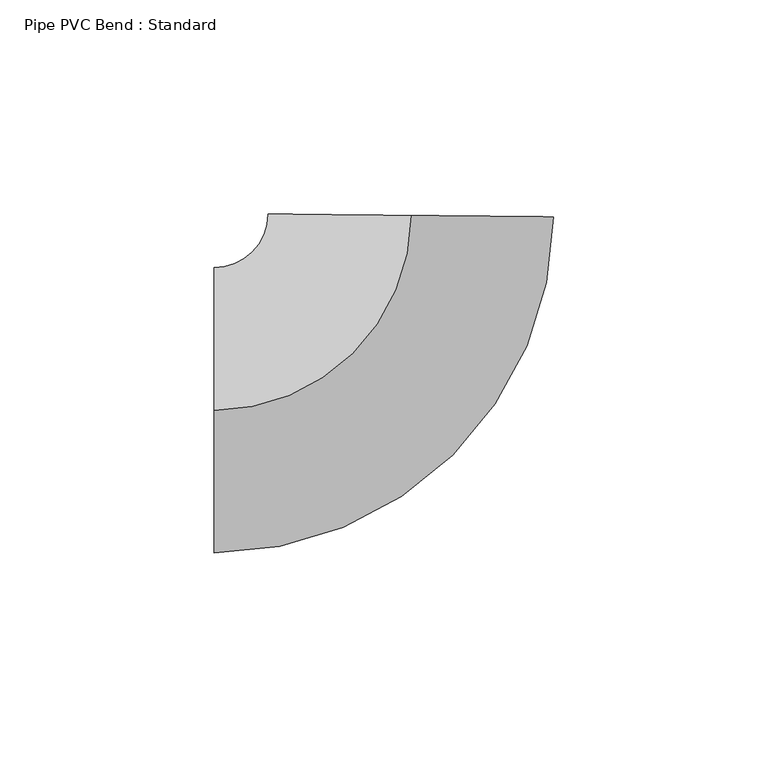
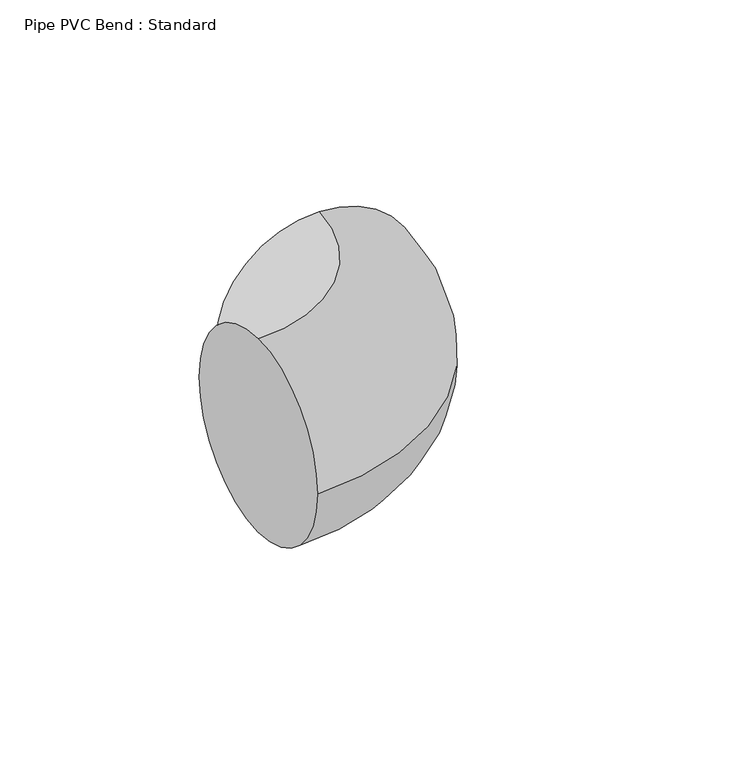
"""IFC4 building model written with IfcOpenShell, lengths in millimetres: pipe fitting geometry, Pipe PVC Bend : Standard."""

import ifcopenshell
import ifcopenshell.guid

model = None  # the IFC model being written
_history = None  # IfcOwnerHistory: only IFC2X3 demands one
_inside = {}  # id of a spatial element -> (the spatial element, [elements in it])
_under = {}  # id of a project, library or spatial element -> (it, [spatial elements below it])
_declared = {}  # id of a project -> (the project, [libraries it declares])
_typed = {}  # id of a type object -> (the type object, [elements of that type])
_made_of = {}  # id of a material, layer set ... -> (it, [elements and type objects made of it])


def new_model(schema):
    """Start an empty IFC model of exactly this schema.

    Asked for "IFC4X3", IfcOpenShell would pick the latest addendum, in which some entities
    have other attributes; the version numbers below select the first issue.
    IFC2X3 requires an IfcOwnerHistory on every rooted entity: one is made here for all.
    """
    global model, _history
    if schema == "IFC4X3":
        model = ifcopenshell.file(schema_version=(4, 3, 0, 0))
    else:
        model = ifcopenshell.file(schema=schema)
    _inside.clear()
    _under.clear()
    _declared.clear()
    _typed.clear()
    _made_of.clear()
    _history = None
    if model.schema == "IFC2X3":
        org = make("IfcOrganization", Name="unknown")
        user = make(
            "IfcPersonAndOrganization",
            ThePerson=make("IfcPerson", FamilyName="unknown"),
            TheOrganization=org,
        )
        app = make(
            "IfcApplication",
            ApplicationDeveloper=org,
            Version="unknown",
            ApplicationFullName="unknown",
            ApplicationIdentifier="unknown",
        )
        _history = make(
            "IfcOwnerHistory",
            OwningUser=user,
            OwningApplication=app,
            ChangeAction="ADDED",
            CreationDate=0,
        )
    return model


def make(cls, **values):
    """One entity of the class cls with the attributes given. An attribute that is None is left unset."""
    return model.create_entity(
        cls, **{name: value for name, value in values.items() if value is not None}
    )


def rooted(cls, **values):
    """An entity with a GlobalId (a new one), such as an element, a storey or a relation."""
    return make(cls, GlobalId=ifcopenshell.guid.new(), OwnerHistory=_history, **values)


def si_unit(unit_type, name, prefix=None):
    """IfcSIUnit, for example si_unit("LENGTHUNIT", "METRE", prefix="MILLI")."""
    return make("IfcSIUnit", UnitType=unit_type, Prefix=prefix, Name=name)


def assignment(units):
    """IfcUnitAssignment: the units of a project."""
    return None if units is None else make("IfcUnitAssignment", Units=units)


def point(xyz):
    """IfcCartesianPoint."""
    return None if xyz is None else make("IfcCartesianPoint", Coordinates=xyz)


def direction(xyz):
    """IfcDirection."""
    return None if xyz is None else make("IfcDirection", DirectionRatios=xyz)


def frame(location, z_axis=None, x_axis=None):
    """IfcAxis2Placement3D, a coordinate frame: its origin and axes. An axis left out is left unset."""
    return make(
        "IfcAxis2Placement3D",
        Location=point(location),
        Axis=direction(z_axis),
        RefDirection=direction(x_axis),
    )


def origin():
    """The frame at (0, 0, 0) with its axes left unset."""
    return frame((0.0, 0.0, 0.0))


def place(relative_to, where):
    """IfcLocalPlacement: puts the frame where relative to a parent placement (None: the world)."""
    return make(
        "IfcLocalPlacement", PlacementRelTo=relative_to, RelativePlacement=where
    )


def context(
    kind, dimensions, precision=None, world=None, true_north=None, identifier=None
):
    """IfcGeometricRepresentationContext, for example the 3D "Model" context."""
    return make(
        "IfcGeometricRepresentationContext",
        ContextIdentifier=identifier,
        ContextType=kind,
        CoordinateSpaceDimension=dimensions,
        Precision=precision,
        WorldCoordinateSystem=world,
        TrueNorth=true_north,
    )


def project(units=None, contexts=None):
    """IfcProject with its units and contexts."""
    return rooted(
        "IfcProject",
        Name="project",
        RepresentationContexts=contexts,
        UnitsInContext=assignment(units),
    )


def spatial(cls, under=None, at=None, **own):
    """A site, building, storey or space (cls), placed at a placement, below another one or the project."""
    s = rooted(cls, ObjectPlacement=at, **own)
    if under is not None:
        _under.setdefault(under.id(), (under, []))[1].append(s)
    return s


def circle_curve(where, radius):
    """IfcCircle in the frame where."""
    return make("IfcCircle", Position=where, Radius=radius)


def ellipse_curve(where, semi_axis1, semi_axis2):
    """IfcEllipse in the frame where."""
    return make(
        "IfcEllipse", Position=where, SemiAxis1=semi_axis1, SemiAxis2=semi_axis2
    )


def trimmed(basis, trim1, trim2, sense, master):
    """IfcTrimmedCurve: the piece of a basis curve between two trims."""
    return make(
        "IfcTrimmedCurve",
        BasisCurve=basis,
        Trim1=trim1,
        Trim2=trim2,
        SenseAgreement=sense,
        MasterRepresentation=master,
    )


def shape(context_of_items, identifier, shape_type, items):
    """IfcShapeRepresentation: the items that make up one representation, for example the "Body"."""
    return make(
        "IfcShapeRepresentation",
        ContextOfItems=context_of_items,
        RepresentationIdentifier=identifier,
        RepresentationType=shape_type,
        Items=items,
    )


def source(mapping_origin, context_of_items, identifier, shape_type, items):
    """IfcRepresentationMap: a shape defined once, which mapped items show again and again."""
    return make(
        "IfcRepresentationMap",
        MappingOrigin=mapping_origin,
        MappedRepresentation=shape(context_of_items, identifier, shape_type, items),
    )


def transform(
    local_origin,
    x_axis=None,
    y_axis=None,
    z_axis=None,
    scale=None,
    scale2=None,
    scale3=None,
    uniform=True,
):
    """IfcCartesianTransformationOperator3D, or its non-uniform kind. x_axis, y_axis, z_axis: its Axis1, 2, 3."""
    if uniform:
        return make(
            "IfcCartesianTransformationOperator3D",
            Axis1=direction(x_axis),
            Axis2=direction(y_axis),
            LocalOrigin=point(local_origin),
            Scale=scale,
            Axis3=direction(z_axis),
        )
    return make(
        "IfcCartesianTransformationOperator3DnonUniform",
        Axis1=direction(x_axis),
        Axis2=direction(y_axis),
        LocalOrigin=point(local_origin),
        Scale=scale,
        Axis3=direction(z_axis),
        Scale2=scale2,
        Scale3=scale3,
    )


def mapped(mapping_source, mapping_target):
    """IfcMappedItem: shows the shape of a source again, moved by a transform."""
    return make(
        "IfcMappedItem", MappingSource=mapping_source, MappingTarget=mapping_target
    )


def made_of(thing, what):
    """Note that an element or type object is made of a material, layer set ...; save() writes the relation."""
    if what is not None:
        _made_of.setdefault(what.id(), (what, []))[1].append(thing)
    return thing


def element(
    cls,
    number,
    at=None,
    inside=None,
    cuts=None,
    type_object=None,
    material=None,
    context=None,
    identifier="Body",
    shape_type=None,
    held_by="IfcProductDefinitionShape",
    body=None,
    shapes=None,
    **own,
):
    """One element of the class cls, such as IfcWall. Its Tag is "e" and its number.

    at: its placement. inside: the storey or other place that contains it. cuts: it is an
    opening in that element (IfcRelVoidsElement). A single representation is given by context,
    identifier, shape_type and body (its items); several are given by shapes. held_by: the class
    of the entity that holds the representations. save() writes the other relations.
    """
    e = rooted(cls, Tag="e%d" % number, ObjectPlacement=at, **own)
    if body is not None:
        shapes = [shape(context, identifier, shape_type, body)]
    if shapes is not None:
        e.Representation = make(held_by, Representations=shapes)
    if inside is not None:
        _inside.setdefault(inside.id(), (inside, []))[1].append(e)
    if cuts is not None:
        rooted(
            "IfcRelVoidsElement", RelatingBuildingElement=cuts, RelatedOpeningElement=e
        )
    if type_object is not None:
        _typed.setdefault(type_object.id(), (type_object, []))[1].append(e)
    return made_of(e, material)


def aggregate(whole, parts):
    """IfcRelAggregates: a whole, such as a stair, and the parts it consists of."""
    return rooted("IfcRelAggregates", RelatingObject=whole, RelatedObjects=parts)


def save(model, path):
    """Write the relations noted so far, then the file.

    IfcRelAggregates (storeys below a building ...), IfcRelContainedInSpatialStructure (elements
    in a storey), IfcRelDefinesByType, IfcRelAssociatesMaterial and IfcRelDeclares: one each for
    every whole, place, type object, material and project.
    """
    for whole, parts in _under.values():
        aggregate(whole, parts)
    for where, things in _inside.values():
        rooted(
            "IfcRelContainedInSpatialStructure",
            RelatedElements=things,
            RelatingStructure=where,
        )
    for kind, things in _typed.values():
        rooted("IfcRelDefinesByType", RelatedObjects=things, RelatingType=kind)
    for what, things in _made_of.values():
        rooted("IfcRelAssociatesMaterial", RelatedObjects=things, RelatingMaterial=what)
    for by, libraries in _declared.values():
        rooted("IfcRelDeclares", RelatingContext=by, RelatedDefinitions=libraries)
    model.write(path)


def plane_surface(at):
    """IfcPlane: the flat surface through the origin of the frame at, square to its z axis."""
    return make("IfcPlane", Position=at)


def revolved_surface(curve, axis_point, axis_direction):
    """IfcSurfaceOfRevolution: the curve turned about the line through axis_point along axis_direction."""
    return make(
        "IfcSurfaceOfRevolution",
        SweptCurve=make("IfcArbitraryOpenProfileDef", ProfileType="CURVE", Curve=curve),
        AxisPosition=make("IfcAxis1Placement", Location=point(axis_point), Axis=direction(axis_direction)),
    )


def advanced_brep(points, edges, surfaces, faces):
    """IfcAdvancedBrep: a solid bounded by faces that lie on surfaces and meet in shared edges.

    An edge is (start, end): straight between two places in points (the first is 0);
    or (start, end, curve); or (start, end, curve, False) where it runs against its curve.
    A face is (place in surfaces, loops), or (place, loops, False) where it looks against
    its surface's normal. A loop lists edges by number (the first is 1), with a minus sign
    where the edge is run from its end to its start. The first loop is the outer one.
    """
    corners = [point(p) for p in points]
    vertices = [make("IfcVertexPoint", VertexGeometry=c) for c in corners]
    made = []
    for start, end, *more in edges:
        made.append(
            make(
                "IfcEdgeCurve",
                EdgeStart=vertices[start],
                EdgeEnd=vertices[end],
                EdgeGeometry=more[0] if more else make("IfcPolyline", Points=[corners[start], corners[end]]),
                SameSense=more[1] if len(more) > 1 else True,
            )
        )
    hull = []
    for where, loops, *sense in faces:
        bounds = []
        for j, loop in enumerate(loops):
            ring = [make("IfcOrientedEdge", EdgeElement=made[abs(k) - 1], Orientation=k > 0) for k in loop]
            bounds.append(
                make(
                    "IfcFaceOuterBound" if j == 0 else "IfcFaceBound",
                    Bound=make("IfcEdgeLoop", EdgeList=ring),
                    Orientation=True,
                )
            )
        hull.append(make("IfcAdvancedFace", Bounds=bounds, FaceSurface=surfaces[where], SameSense=sense[0] if sense else True))
    return make("IfcAdvancedBrep", Outer=make("IfcClosedShell", CfsFaces=hull))


def pipe_pvc_bend_standard_296dcabe(model_context):
    return source(origin(), model_context, "Body", "AdvancedBrep", [
        advanced_brep(
        [(-45.5542112, 0.0, 33.3375), (-45.5542112, 33.3375, 0.0), (-45.5542112, 0.0, -33.3375), (-45.5542112, -33.3375, 0.0), (0.4807254, 45.5516746, 33.3375), (33.816369, 45.19987, 0.0), (0.4807254, 45.5516746, -33.3375), (-32.8549183, 45.9034792, 0.0)],
        [
            (0, 1, circle_curve(frame((-45.5542112, 0.0, 0.0), z_axis=(-1.0, 0.0, 0.0), x_axis=(0.0, 1.0, 0.0)), 33.3375)),
            (1, 2, circle_curve(frame((-45.5542112, 0.0, 0.0), z_axis=(-1.0, 0.0, 0.0), x_axis=(0.0, 1.0, 0.0)), 33.3375)),
            (2, 3, circle_curve(frame((-45.5542112, 0.0, 0.0), z_axis=(-1.0, 0.0, 0.0), x_axis=(0.0, 1.0, 0.0)), 33.3375)),
            (3, 0, circle_curve(frame((-45.5542112, 0.0, 0.0), z_axis=(-1.0, 0.0, 0.0), x_axis=(0.0, 1.0, 0.0)), 33.3375)),
            (4, 5, circle_curve(frame((0.4807254, 45.5516746, 0.0), z_axis=(0.010552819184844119, 0.999944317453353, 0.0), x_axis=(-0.999944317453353, 0.010552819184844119, 0.0)), 33.3375)),
            (5, 6, circle_curve(frame((0.4807254, 45.5516746, 0.0), z_axis=(0.010552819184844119, 0.999944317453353, 0.0), x_axis=(-0.999944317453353, 0.010552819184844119, 0.0)), 33.3375)),
            (6, 7, circle_curve(frame((0.4807254, 45.5516746, 0.0), z_axis=(0.010552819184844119, 0.999944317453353, 0.0), x_axis=(-0.999944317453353, 0.010552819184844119, 0.0)), 33.3375)),
            (7, 4, circle_curve(frame((0.4807254, 45.5516746, 0.0), z_axis=(0.010552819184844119, 0.999944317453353, 0.0), x_axis=(-0.999944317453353, 0.010552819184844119, 0.0)), 33.3375)),
            (7, 1, circle_curve(frame((-45.5542112, 46.0375, 0.0), z_axis=(0.0, 0.0, -1.0), x_axis=(0.0, -1.0, 0.0)), 12.7)),
            (0, 4, circle_curve(frame((-45.5542112, 46.0375, 33.3375), z_axis=(0.0, 0.0, 1.0), x_axis=(0.0, -1.0, 0.0)), 46.0375)),
            (6, 2, circle_curve(frame((-45.5542112, 46.0375, -33.3375), z_axis=(0.0, 0.0, -1.0), x_axis=(0.0, -1.0, 0.0)), 46.0375)),
            (5, 3, circle_curve(frame((-45.5542112, 46.0375, 0.0), z_axis=(0.0, 0.0, -1.0), x_axis=(0.0, -1.0, 0.0)), 79.375)),
        ],
        [
            plane_surface(frame((-45.5542112, 0.0, 0.0), z_axis=(-1.0, 0.0, 0.0), x_axis=(0.0, 0.0, 1.0))),
            plane_surface(frame((0.4807254, 45.5516746, 0.0), z_axis=(0.010552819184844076, 0.9999443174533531, 0.0), x_axis=(0.0, 0.0, 1.0))),
            revolved_surface(trimmed(ellipse_curve(frame((-45.5542112, 0.0, 0.0), z_axis=(-1.0, 0.0, 0.0), x_axis=(0.0, 1.0, 0.0)), 33.3375, 33.3375), [point((-45.5542112, 0.0, 33.3375))], [point((-45.5542112, 33.3375, 0.0))], True, "CARTESIAN"), (-45.5542112, 46.0375, 0.0), (0.0, 0.0, 1.0)),
            revolved_surface(trimmed(ellipse_curve(frame((-45.5542112, 0.0, 0.0), z_axis=(-1.0, 0.0, 0.0), x_axis=(0.0, 1.0, 0.0)), 33.3375, 33.3375), [point((-45.5542112, 33.3375, 0.0))], [point((-45.5542112, 0.0, -33.3375))], True, "CARTESIAN"), (-45.5542112, 46.0375, 0.0), (0.0, 0.0, 1.0)),
            revolved_surface(trimmed(ellipse_curve(frame((-45.5542112, 0.0, 0.0), z_axis=(-1.0, 0.0, 0.0), x_axis=(0.0, 1.0, 0.0)), 33.3375, 33.3375), [point((-45.5542112, 0.0, -33.3375))], [point((-45.5542112, -33.3375, 0.0))], True, "CARTESIAN"), (-45.5542112, 46.0375, 0.0), (0.0, 0.0, 1.0)),
            revolved_surface(trimmed(ellipse_curve(frame((-45.5542112, 0.0, 0.0), z_axis=(-1.0, 0.0, 0.0), x_axis=(0.0, 1.0, 0.0)), 33.3375, 33.3375), [point((-45.5542112, -33.3375, 0.0))], [point((-45.5542112, 0.0, 33.3375))], True, "CARTESIAN"), (-45.5542112, 46.0375, 0.0), (0.0, 0.0, 1.0)),
        ],
        [
            (0, [[1, 2, 3, 4]]),
            (1, [[5, 6, 7, 8]]),
            (2, [[9, -1, 10, -8]]),
            (3, [[11, -2, -9, -7]]),
            (4, [[12, -3, -11, -6]]),
            (5, [[-10, -4, -12, -5]]),
        ],
    ),
        advanced_brep(
        [(-45.5542112, 0.0, 33.3375), (-45.5542112, 33.3375, 0.0), (-45.5542112, 0.0, -33.3375), (-45.5542112, -33.3375, 0.0), (0.4807254, 45.5516746, 33.3375), (33.816369, 45.19987, 0.0), (0.4807254, 45.5516746, -33.3375), (-32.8549183, 45.9034792, 0.0)],
        [
            (0, 1, circle_curve(frame((-45.5542112, 0.0, 0.0), z_axis=(-1.0, 0.0, 0.0), x_axis=(0.0, 1.0, 0.0)), 33.3375)),
            (1, 2, circle_curve(frame((-45.5542112, 0.0, 0.0), z_axis=(-1.0, 0.0, 0.0), x_axis=(0.0, 1.0, 0.0)), 33.3375)),
            (2, 3, circle_curve(frame((-45.5542112, 0.0, 0.0), z_axis=(-1.0, 0.0, 0.0), x_axis=(0.0, 1.0, 0.0)), 33.3375)),
            (3, 0, circle_curve(frame((-45.5542112, 0.0, 0.0), z_axis=(-1.0, 0.0, 0.0), x_axis=(0.0, 1.0, 0.0)), 33.3375)),
            (4, 5, circle_curve(frame((0.4807254, 45.5516746, 0.0), z_axis=(0.010552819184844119, 0.999944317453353, 0.0), x_axis=(-0.999944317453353, 0.010552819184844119, 0.0)), 33.3375)),
            (5, 6, circle_curve(frame((0.4807254, 45.5516746, 0.0), z_axis=(0.010552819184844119, 0.999944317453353, 0.0), x_axis=(-0.999944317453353, 0.010552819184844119, 0.0)), 33.3375)),
            (6, 7, circle_curve(frame((0.4807254, 45.5516746, 0.0), z_axis=(0.010552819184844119, 0.999944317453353, 0.0), x_axis=(-0.999944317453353, 0.010552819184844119, 0.0)), 33.3375)),
            (7, 4, circle_curve(frame((0.4807254, 45.5516746, 0.0), z_axis=(0.010552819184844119, 0.999944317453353, 0.0), x_axis=(-0.999944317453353, 0.010552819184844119, 0.0)), 33.3375)),
            (7, 1, circle_curve(frame((-45.5542112, 46.0375, 0.0), z_axis=(0.0, 0.0, -1.0), x_axis=(0.0, -1.0, 0.0)), 12.7)),
            (0, 4, circle_curve(frame((-45.5542112, 46.0375, 33.3375), z_axis=(0.0, 0.0, 1.0), x_axis=(0.0, -1.0, 0.0)), 46.0375)),
            (6, 2, circle_curve(frame((-45.5542112, 46.0375, -33.3375), z_axis=(0.0, 0.0, -1.0), x_axis=(0.0, -1.0, 0.0)), 46.0375)),
            (5, 3, circle_curve(frame((-45.5542112, 46.0375, 0.0), z_axis=(0.0, 0.0, -1.0), x_axis=(0.0, -1.0, 0.0)), 79.375)),
        ],
        [
            plane_surface(frame((-45.5542112, 0.0, 0.0), z_axis=(-1.0, 0.0, 0.0), x_axis=(0.0, 0.0, 1.0))),
            plane_surface(frame((0.4807254, 45.5516746, 0.0), z_axis=(0.010552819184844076, 0.9999443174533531, 0.0), x_axis=(0.0, 0.0, 1.0))),
            revolved_surface(trimmed(ellipse_curve(frame((-45.5542112, 0.0, 0.0), z_axis=(-1.0, 0.0, 0.0), x_axis=(0.0, 1.0, 0.0)), 33.3375, 33.3375), [point((-45.5542112, 0.0, 33.3375))], [point((-45.5542112, 33.3375, 0.0))], True, "CARTESIAN"), (-45.5542112, 46.0375, 0.0), (0.0, 0.0, 1.0)),
            revolved_surface(trimmed(ellipse_curve(frame((-45.5542112, 0.0, 0.0), z_axis=(-1.0, 0.0, 0.0), x_axis=(0.0, 1.0, 0.0)), 33.3375, 33.3375), [point((-45.5542112, 33.3375, 0.0))], [point((-45.5542112, 0.0, -33.3375))], True, "CARTESIAN"), (-45.5542112, 46.0375, 0.0), (0.0, 0.0, 1.0)),
            revolved_surface(trimmed(ellipse_curve(frame((-45.5542112, 0.0, 0.0), z_axis=(-1.0, 0.0, 0.0), x_axis=(0.0, 1.0, 0.0)), 33.3375, 33.3375), [point((-45.5542112, 0.0, -33.3375))], [point((-45.5542112, -33.3375, 0.0))], True, "CARTESIAN"), (-45.5542112, 46.0375, 0.0), (0.0, 0.0, 1.0)),
            revolved_surface(trimmed(ellipse_curve(frame((-45.5542112, 0.0, 0.0), z_axis=(-1.0, 0.0, 0.0), x_axis=(0.0, 1.0, 0.0)), 33.3375, 33.3375), [point((-45.5542112, -33.3375, 0.0))], [point((-45.5542112, 0.0, 33.3375))], True, "CARTESIAN"), (-45.5542112, 46.0375, 0.0), (0.0, 0.0, 1.0)),
        ],
        [
            (0, [[1, 2, 3, 4]]),
            (1, [[5, 6, 7, 8]]),
            (2, [[9, -1, 10, -8]]),
            (3, [[11, -2, -9, -7]]),
            (4, [[12, -3, -11, -6]]),
            (5, [[-10, -4, -12, -5]]),
        ],
    ),
    ])


if __name__ == "__main__":
    model = new_model("IFC4")
    model_context = context("Model", 3, world=origin())
    ifc_project = project(units=[si_unit("LENGTHUNIT", "METRE", prefix="MILLI")], contexts=[model_context])
    site = spatial("IfcSite", under=ifc_project)
    building = spatial("IfcBuilding", under=site)
    placement = place(None, origin())
    pipe_pvc_bend_standard_shape = pipe_pvc_bend_standard_296dcabe(model_context)
    element("IfcPipeFitting", 1, ObjectType="Pipe PVC Bend : Standard", at=placement, inside=building, context=model_context, shape_type="MappedRepresentation", body=[
        mapped(pipe_pvc_bend_standard_shape, transform((0.0, 0.0, 0.0), x_axis=(1.0, 0.0, 0.0), y_axis=(0.0, 1.0, 0.0), z_axis=(0.0, 0.0, 1.0))),
    ])
    save(model, "model.ifc")
